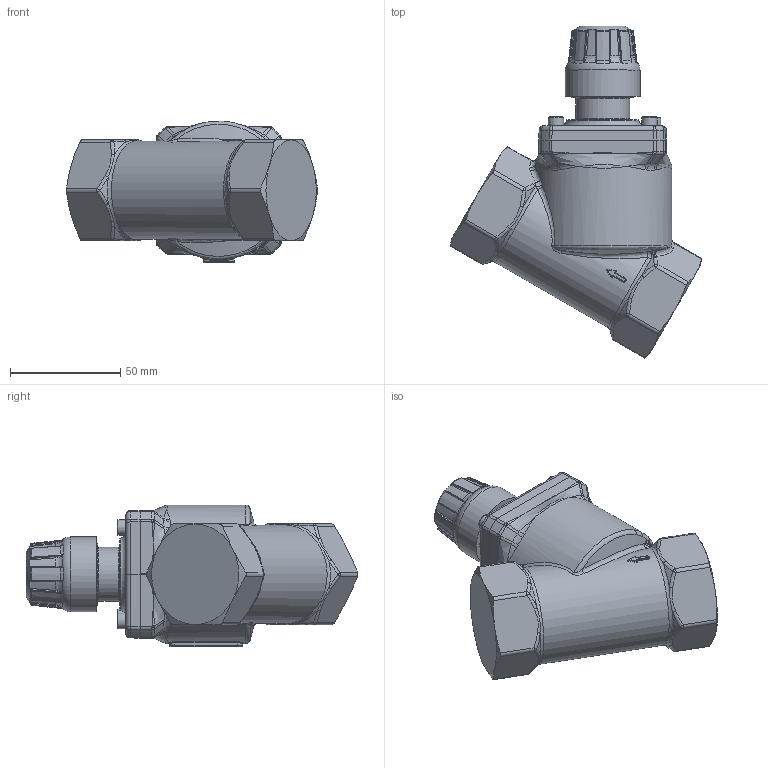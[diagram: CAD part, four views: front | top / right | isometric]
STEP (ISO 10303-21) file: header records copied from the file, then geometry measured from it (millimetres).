
FILE_DESCRIPTION(/* description */ ('Dansk beskrivelse'),/* implementation_level */ '2;1');
FILE_NAME(/* name */ 'C:\Users\jjo\Desktop\Siemens Cad modeller\53-1554.stp',/* time_stamp */ '2015-05-05T12:36:50+02:00',/* author */ ('jjo'),/* organization */ (''),/* preprocessor_version */ 'ST-DEVELOPER v15.2',/* originating_system */ 'Autodesk Inventor 2014',/* authorisation */ '0 mm^3');
FILE_SCHEMA (('AUTOMOTIVE_DESIGN { 1 0 10303 214 3 1 1 }'));
Products named in the file (1): 53-1554_Shrinkwrap_1
Bounding box: 114.13 x 150.87 x 64.47 mm (x, y, z)
Volume: 350986.9 mm3; surface area: 34239.8 mm2
Topology: 1 solids, 1 shells, 1045 faces, 2643 edges, 1598 vertices
Faces by surface type: bspline 536, plane 266, cylinder 113, cone 57, torus 53, sphere 20
Full cylindrical faces by diameter (mm): 7 x4, 24.5 x1, 34 x1
Entity records: 52356 total; most frequent: CARTESIAN_POINT 29917, ORIENTED_EDGE 5130, DIRECTION 3208, EDGE_CURVE 2565, VERTEX_POINT 1595, AXIS2_PLACEMENT_3D 1228, EDGE_LOOP 1118, B_SPLINE_CURVE_WITH_KNOTS 1071
